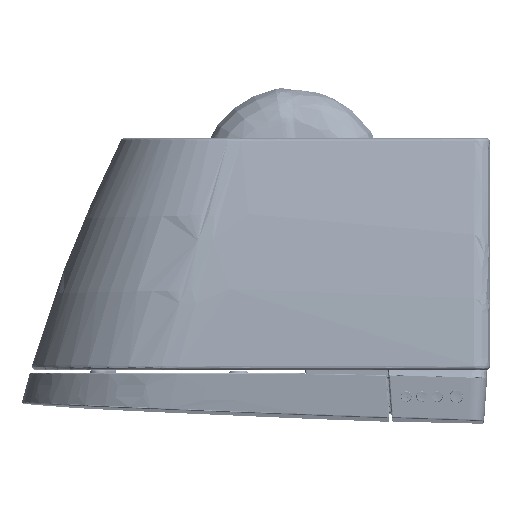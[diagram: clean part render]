
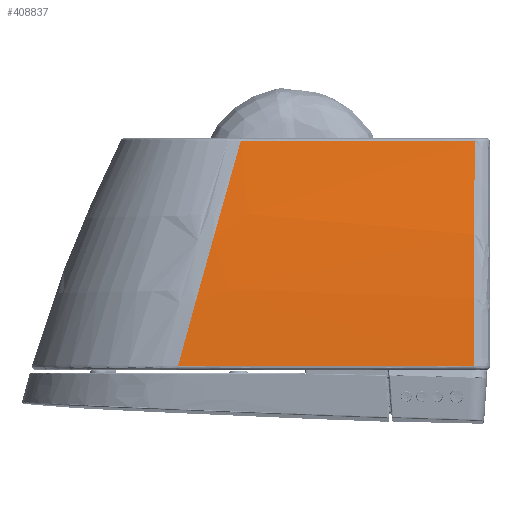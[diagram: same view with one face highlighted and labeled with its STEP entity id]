
A CAD part, front view. The second image highlights one B-rep face of the part: STEP entity #408837.
In plain terms, the highlighted free-form (B-spline) face has degree [3, 3] with [5, 4] control points.
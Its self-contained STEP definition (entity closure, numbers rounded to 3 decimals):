
#429 = CARTESIAN_POINT ( 'NONE',  ( -327.983, -140.59, 297.055 ) ) ;
#1510 = CARTESIAN_POINT ( 'NONE',  ( -386.184, -184.074, 102.967 ) ) ;
#7146 = CARTESIAN_POINT ( 'NONE',  ( -267.601, -194.266, 2.58 ) ) ;
#10393 = B_SPLINE_SURFACE_WITH_KNOTS ( 'NONE', 3, 3, ( 
 ( #442983, #190405, #454233, #270886 ),
 ( #792475, #803755, #781139, #953194 ),
 ( #18428, #717631, #867189, #7146 ),
 ( #98765, #786830, #1067430, #603533 ),
 ( #695081, #1044842, #1510, #351355 ) ),
 .UNSPECIFIED., .F., .F., .F.,
 ( 4, 1, 4 ),
 ( 4, 4 ),
 ( -3.428, 304.763, 346.287 ),
 ( 0.097, 320.463 ),
 .UNSPECIFIED. ) ;
#18428 = CARTESIAN_POINT ( 'NONE',  ( -215.372, -139.861, 299.92 ) ) ;
#66222 = CARTESIAN_POINT ( 'NONE',  ( -190.215, -140.679, 297.101 ) ) ;
#67589 = ORIENTED_EDGE ( 'NONE', *, *, #137444, .F. ) ;
#83170 = CARTESIAN_POINT ( 'NONE',  ( -226.096, -140.657, 297.089 ) ) ;
#93493 = VERTEX_POINT ( 'NONE', #673059 ) ;
#98765 = CARTESIAN_POINT ( 'NONE',  ( -318.002, -139.811, 299.915 ) ) ;
#123238 = CARTESIAN_POINT ( 'NONE',  ( -288.496, -193.651, 5.486 ) ) ;
#127251 = CARTESIAN_POINT ( 'NONE',  ( -25.315, -140.787, 297.153 ) ) ;
#137444 = EDGE_CURVE ( 'NONE', #836756, #814570, #729863, .T. ) ;
#146621 = CARTESIAN_POINT ( 'NONE',  ( -182.122, -140.684, 297.104 ) ) ;
#150546 = CARTESIAN_POINT ( 'NONE',  ( -409.313, -191.75, 5.421 ) ) ;
#161652 = ORIENTED_EDGE ( 'NONE', *, *, #938490, .F. ) ;
#190405 = CARTESIAN_POINT ( 'NONE',  ( -22.058, -165.797, 214.856 ) ) ;
#232597 = CARTESIAN_POINT ( 'NONE',  ( -114.794, -140.726, 297.128 ) ) ;
#249553 = CARTESIAN_POINT ( 'NONE',  ( -182.066, -140.684, 297.104 ) ) ;
#270886 = CARTESIAN_POINT ( 'NONE',  ( -21.467, -198.21, 2.384 ) ) ;
#286116 =( BOUNDED_CURVE ( )  B_SPLINE_CURVE ( 3, ( #914325, #484390, #570300, #123238, #1005938, #1000285 ),
 .UNSPECIFIED., .F., .F. ) 
 B_SPLINE_CURVE_WITH_KNOTS ( ( 4, 1, 1, 4 ),
 ( 0., 0.36, 0.695, 1. ),
 .UNSPECIFIED. ) 
 CURVE ( )  GEOMETRIC_REPRESENTATION_ITEM ( )  RATIONAL_B_SPLINE_CURVE ( ( 1.201, 1.201, 1.201, 1.201, 1.201, 1.201 ) ) 
 REPRESENTATION_ITEM ( '' )  );
#293788 = CARTESIAN_POINT ( 'NONE',  ( -25.612, -197.777, 5.575 ) ) ;
#316390 = CARTESIAN_POINT ( 'NONE',  ( -25.568, -191.151, 58.834 ) ) ;
#330924 = CARTESIAN_POINT ( 'NONE',  ( -25.315, -140.787, 297.153 ) ) ;
#335698 = CARTESIAN_POINT ( 'NONE',  ( -327.983, -140.59, 297.055 ) ) ;
#341342 = CARTESIAN_POINT ( 'NONE',  ( -186.127, -140.682, 297.103 ) ) ;
#351355 = CARTESIAN_POINT ( 'NONE',  ( -413.878, -191.896, 2.799 ) ) ;
#361537 = CARTESIAN_POINT ( 'NONE',  ( -409.313, -191.75, 5.421 ) ) ;
#368293 = FACE_OUTER_BOUND ( 'NONE', #739575, .T. ) ;
#396783 = CARTESIAN_POINT ( 'NONE',  ( -25.343, -147.26, 275.64 ) ) ;
#408837 = ADVANCED_FACE ( 'NONE', ( #368293 ), #10393, .T. ) ;
#421732 = CARTESIAN_POINT ( 'NONE',  ( -317.341, -140.598, 297.058 ) ) ;
#427359 = CARTESIAN_POINT ( 'NONE',  ( -249.479, -140.642, 297.081 ) ) ;
#442983 = CARTESIAN_POINT ( 'NONE',  ( -22.296, -139.95, 299.926 ) ) ;
#454233 = CARTESIAN_POINT ( 'NONE',  ( -21.781, -185.217, 115.676 ) ) ;
#477084 = CARTESIAN_POINT ( 'NONE',  ( -25.522, -183.339, 110.153 ) ) ;
#484390 = CARTESIAN_POINT ( 'NONE',  ( -71.671, -197.054, 5.566 ) ) ;
#496388 = CARTESIAN_POINT ( 'NONE',  ( -182.008, -140.684, 297.104 ) ) ;
#518899 = CARTESIAN_POINT ( 'NONE',  ( -263.356, -140.633, 297.076 ) ) ;
#539070 = CARTESIAN_POINT ( 'NONE',  ( -382.348, -183.848, 103.892 ) ) ;
#565697 = VERTEX_POINT ( 'NONE', #150546 ) ;
#570300 = CARTESIAN_POINT ( 'NONE',  ( -160.596, -195.658, 5.541 ) ) ;
#582302 = CARTESIAN_POINT ( 'NONE',  ( -198.252, -140.674, 297.099 ) ) ;
#587992 = CARTESIAN_POINT ( 'NONE',  ( -182.029, -140.684, 297.104 ) ) ;
#593568 = CARTESIAN_POINT ( 'NONE',  ( -62.569, -140.76, 297.144 ) ) ;
#603533 = CARTESIAN_POINT ( 'NONE',  ( -398.352, -192.146, 2.776 ) ) ;
#643305 = CARTESIAN_POINT ( 'NONE',  ( -25.37, -153.277, 253.389 ) ) ;
#648899 = CARTESIAN_POINT ( 'NONE',  ( -25.448, -169.582, 183.823 ) ) ;
#673059 = CARTESIAN_POINT ( 'NONE',  ( -25.612, -197.777, 5.575 ) ) ;
#695081 = CARTESIAN_POINT ( 'NONE',  ( -330.189, -139.805, 299.914 ) ) ;
#715730 = B_SPLINE_CURVE_WITH_KNOTS ( 'NONE', 3,
 ( #127251, #396783, #643305, #740561, #648899, #901320, #477084, #316390, #826603, #293788 ),
 .UNSPECIFIED., .F., .F.,
 ( 4, 2, 2, 2, 4 ),
 ( 0., 0.25, 0.5, 0.75, 1. ),
 .UNSPECIFIED. ) ;
#717631 = CARTESIAN_POINT ( 'NONE',  ( -231.11, -165.944, 208.806 ) ) ;
#729863 = B_SPLINE_CURVE_WITH_KNOTS ( 'NONE', 3,
 ( #335698, #421732, #1115294, #518899, #427359, #83170, #868532, #582302, #66222, #341342, #782468, #948870, #1126606, #1132249, #146621, #249553, #587992, #496388, #232597, #593568, #851576 ),
 .UNSPECIFIED., .F., .F.,
 ( 4, 2, 2, 1, 1, 1, 1, 1, 1, 1, 1, 1, 2, 2, 4 ),
 ( 0., 0.25, 0.375, 0.437, 0.469, 0.484, 0.492, 0.496, 0.498, 0.499, 0.5, 0.5, 0.5, 0.5, 1. ),
 .UNSPECIFIED. ) ;
#739575 = EDGE_LOOP ( 'NONE', ( #161652, #1112950, #67589, #820088 ) ) ;
#740561 = CARTESIAN_POINT ( 'NONE',  ( -25.423, -164.439, 207.48 ) ) ;
#741367 = B_SPLINE_CURVE_WITH_KNOTS ( 'NONE', 3,
 ( #429, #802646, #539070, #361537 ),
 .UNSPECIFIED., .F., .F.,
 ( 4, 4 ),
 ( 0., 1. ),
 .UNSPECIFIED. ) ;
#781139 = CARTESIAN_POINT ( 'NONE',  ( -127.653, -184.034, 115.743 ) ) ;
#782468 = CARTESIAN_POINT ( 'NONE',  ( -184.065, -140.683, 297.104 ) ) ;
#786830 = CARTESIAN_POINT ( 'NONE',  ( -344.781, -166.63, 202.716 ) ) ;
#792475 = CARTESIAN_POINT ( 'NONE',  ( -112.741, -139.896, 299.926 ) ) ;
#802646 = CARTESIAN_POINT ( 'NONE',  ( -355.238, -166.795, 201.103 ) ) ;
#803755 = CARTESIAN_POINT ( 'NONE',  ( -119.641, -165.205, 214.925 ) ) ;
#814570 = VERTEX_POINT ( 'NONE', #330924 ) ;
#820088 = ORIENTED_EDGE ( 'NONE', *, *, #1129747, .T. ) ;
#826603 = CARTESIAN_POINT ( 'NONE',  ( -25.591, -194.656, 32.522 ) ) ;
#836756 = VERTEX_POINT ( 'NONE', #917270 ) ;
#851576 = CARTESIAN_POINT ( 'NONE',  ( -25.315, -140.787, 297.153 ) ) ;
#854508 = EDGE_CURVE ( 'NONE', #814570, #93493, #715730, .T. ) ;
#867189 = CARTESIAN_POINT ( 'NONE',  ( -248.52, -184.079, 109.692 ) ) ;
#868532 = CARTESIAN_POINT ( 'NONE',  ( -213.763, -140.664, 297.093 ) ) ;
#901320 = CARTESIAN_POINT ( 'NONE',  ( -25.498, -179.032, 135.159 ) ) ;
#914325 = CARTESIAN_POINT ( 'NONE',  ( -25.612, -197.777, 5.575 ) ) ;
#917270 = CARTESIAN_POINT ( 'NONE',  ( -327.983, -140.59, 297.055 ) ) ;
#938490 = EDGE_CURVE ( 'NONE', #93493, #565697, #286116, .T. ) ;
#948870 = CARTESIAN_POINT ( 'NONE',  ( -183.03, -140.684, 297.104 ) ) ;
#953194 = CARTESIAN_POINT ( 'NONE',  ( -136.779, -196.383, 2.382 ) ) ;
#1000285 = CARTESIAN_POINT ( 'NONE',  ( -409.313, -191.75, 5.421 ) ) ;
#1005938 = CARTESIAN_POINT ( 'NONE',  ( -370.338, -192.36, 5.443 ) ) ;
#1044842 = CARTESIAN_POINT ( 'NONE',  ( -358.287, -166.71, 202.005 ) ) ;
#1067430 = CARTESIAN_POINT ( 'NONE',  ( -371.564, -184.075, 103.67 ) ) ;
#1112950 = ORIENTED_EDGE ( 'NONE', *, *, #854508, .F. ) ;
#1115294 = CARTESIAN_POINT ( 'NONE',  ( -299.854, -140.61, 297.064 ) ) ;
#1126606 = CARTESIAN_POINT ( 'NONE',  ( -182.511, -140.684, 297.104 ) ) ;
#1129747 = EDGE_CURVE ( 'NONE', #836756, #565697, #741367, .T. ) ;
#1132249 = CARTESIAN_POINT ( 'NONE',  ( -182.251, -140.684, 297.104 ) ) ;
